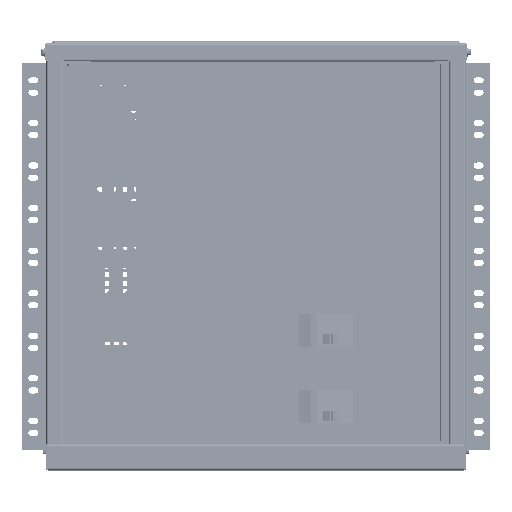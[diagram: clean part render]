
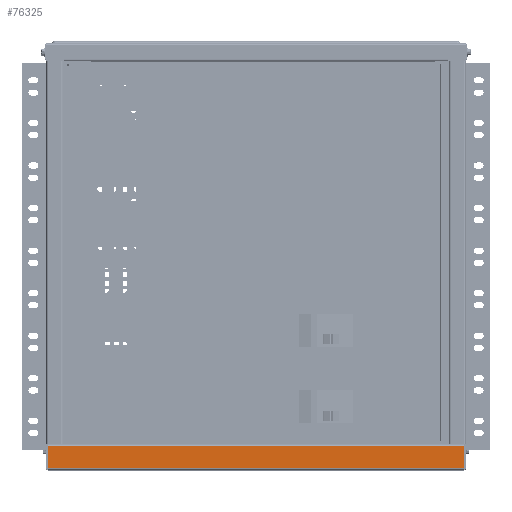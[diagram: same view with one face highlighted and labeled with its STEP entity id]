
A CAD part, top view. The second image highlights one B-rep face of the part: STEP entity #76325.
In plain terms, the highlighted planar face has unit normal (0, 0, 1).
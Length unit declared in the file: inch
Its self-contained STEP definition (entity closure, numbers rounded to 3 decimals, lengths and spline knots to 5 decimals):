
#51110 = ORIENTED_EDGE ( 'NONE', *, *, #161757, .T. ) ;
#51130 = ORIENTED_EDGE ( 'NONE', *, *, #161744, .F. ) ;
#51661 = ORIENTED_EDGE ( 'NONE', *, *, #161772, .T. ) ;
#51693 = ORIENTED_EDGE ( 'NONE', *, *, #161764, .F. ) ;
#76325 = ADVANCED_FACE ( 'NONE', ( #150347 ), #350509, .T. ) ;
#77485 = CARTESIAN_POINT ( 'NONE',  ( -17.105, 7.7948, 6.4375 ) ) ;
#77499 = CARTESIAN_POINT ( 'NONE',  ( -17.105, 8.695, 6.4375 ) ) ;
#77540 = CARTESIAN_POINT ( 'NONE',  ( -0.02, 7.7948, 6.4375 ) ) ;
#80239 = CARTESIAN_POINT ( 'NONE',  ( -0.02, 8.695, 6.4375 ) ) ;
#116989 = LINE ( 'NONE', #125598, #116999 ) ;
#116994 = LINE ( 'NONE', #125650, #117018 ) ;
#116999 = VECTOR ( 'NONE', #125617, 39.37008 ) ;
#117008 = VECTOR ( 'NONE', #278641, 39.37008 ) ;
#117018 = VECTOR ( 'NONE', #125642, 39.37008 ) ;
#117038 = LINE ( 'NONE', #278637, #117008 ) ;
#117047 = VECTOR ( 'NONE', #278671, 39.37008 ) ;
#117052 = LINE ( 'NONE', #278667, #117047 ) ;
#125598 = CARTESIAN_POINT ( 'NONE',  ( -17.105, 8.715, 6.4375 ) ) ;
#125617 = DIRECTION ( 'NONE',  ( 0., 1., 0. ) ) ;
#125642 = DIRECTION ( 'NONE',  ( 1., 0., 0. ) ) ;
#125650 = CARTESIAN_POINT ( 'NONE',  ( -17.105, 7.7948, 6.4375 ) ) ;
#150347 = FACE_OUTER_BOUND ( 'NONE', #308985, .T. ) ;
#161744 = EDGE_CURVE ( 'NONE', #346553, #346571, #116989, .T. ) ;
#161757 = EDGE_CURVE ( 'NONE', #346553, #346711, #116994, .T. ) ;
#161764 = EDGE_CURVE ( 'NONE', #349113, #346711, #117038, .T. ) ;
#161772 = EDGE_CURVE ( 'NONE', #349113, #346571, #117052, .T. ) ;
#278637 = CARTESIAN_POINT ( 'NONE',  ( -0.02, 7.715, 6.4375 ) ) ;
#278641 = DIRECTION ( 'NONE',  ( 0., -1., 0. ) ) ;
#278667 = CARTESIAN_POINT ( 'NONE',  ( -17.105, 8.695, 6.4375 ) ) ;
#278671 = DIRECTION ( 'NONE',  ( -1., 0., 0. ) ) ;
#308985 = EDGE_LOOP ( 'NONE', ( #51130, #51110, #51693, #51661 ) ) ;
#346553 = VERTEX_POINT ( 'NONE', #77485 ) ;
#346571 = VERTEX_POINT ( 'NONE', #77499 ) ;
#346711 = VERTEX_POINT ( 'NONE', #77540 ) ;
#349113 = VERTEX_POINT ( 'NONE', #80239 ) ;
#350509 = PLANE ( 'NONE',  #416316 ) ;
#350518 = CARTESIAN_POINT ( 'NONE',  ( -17.105, 8.715, 6.4375 ) ) ;
#350542 = DIRECTION ( 'NONE',  ( 0., 0., 1. ) ) ;
#350545 = DIRECTION ( 'NONE',  ( 0., -1., 0. ) ) ;
#416316 = AXIS2_PLACEMENT_3D ( 'NONE', #350518, #350542, #350545 ) ;
